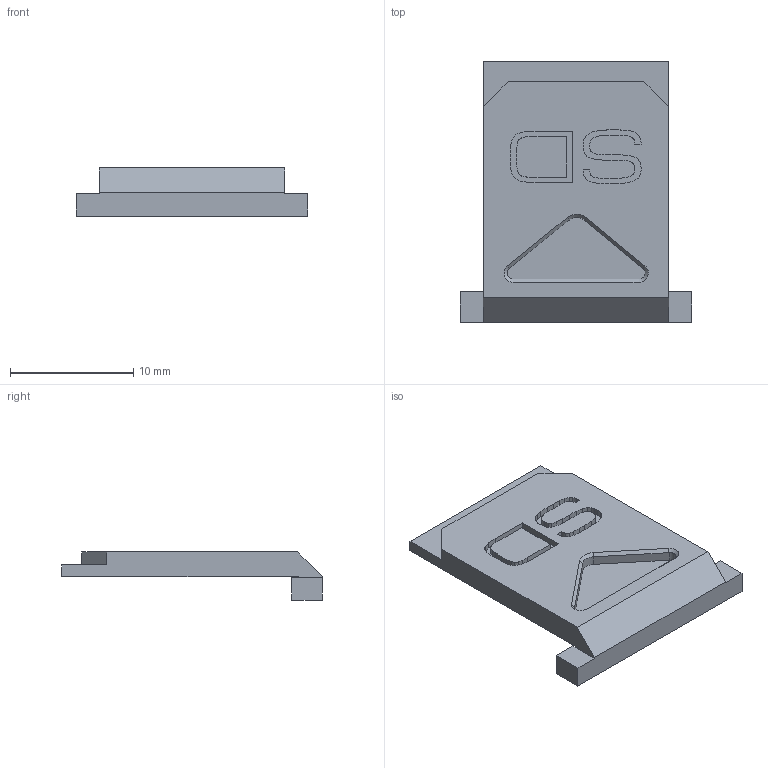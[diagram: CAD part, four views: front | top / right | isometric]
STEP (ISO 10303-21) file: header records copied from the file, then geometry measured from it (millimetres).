
FILE_DESCRIPTION(/* description */ ('STEP AP242','CAx-IF Rec.Pracs.---Representation and Presentation of Product Manufacturing Information (PMI)---4.0---2014-10-13','CAx-IF Rec.Pracs.---3D Tessellated Geometry---0.4---2014-09-14','2;1'),/* implementation_level */ '2;1');
FILE_NAME(/* name */ '687e6c3af344454910d482e1',/* time_stamp */ '2025-07-21T16:35:07Z',/* author */ (''),/* organization */ (''),/* preprocessor_version */ 'ST-DEVELOPER v20',/* originating_system */ 'ONSHAPE BY PTC INC, 1.201',/* authorisation */ ' ');
FILE_SCHEMA (('AP242_MANAGED_MODEL_BASED_3D_ENGINEERING_MIM_LF { 1 0 10303 442 1 1 4 }'));
Length unit declared in the file: metre
Products named in the file (1): Micro SD Cover
Bounding box: 18.8 x 21.15 x 3.9 mm (x, y, z)
Volume: 605.3 mm3; surface area: 907.2 mm2
Topology: 1 solids, 1 shells, 137 faces, 385 edges, 254 vertices
Faces by surface type: cylinder 70, plane 45, bspline 19, cone 3
Entity records: 4556 total; most frequent: CARTESIAN_POINT 986, ORIENTED_EDGE 770, DIRECTION 728, EDGE_CURVE 385, AXIS2_PLACEMENT_3D 262, VERTEX_POINT 254, LINE 204, VECTOR 204
